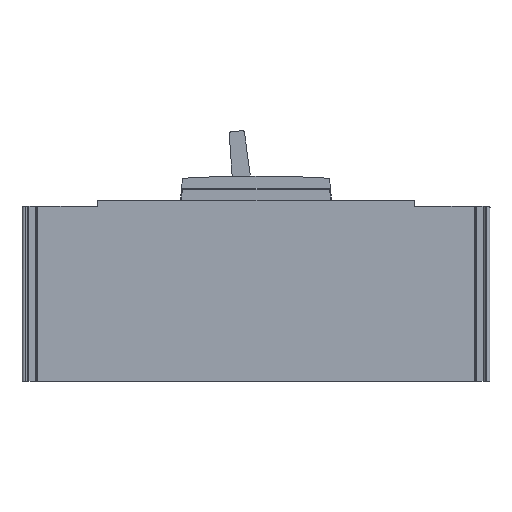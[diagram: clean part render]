
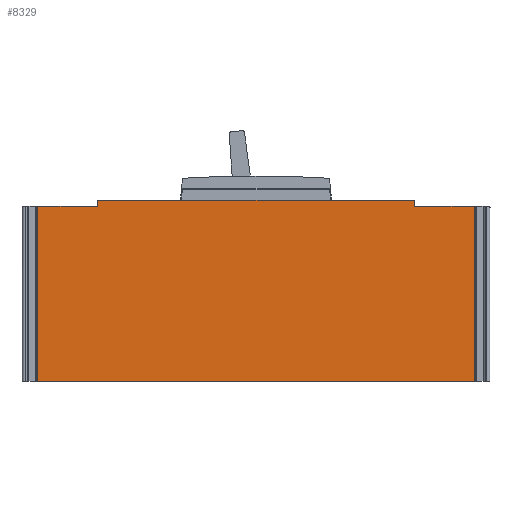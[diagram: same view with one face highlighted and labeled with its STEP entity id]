
A CAD part, left-side view. The second image highlights one B-rep face of the part: STEP entity #8329.
In plain terms, the highlighted planar face has unit normal (-1, 0, 0).
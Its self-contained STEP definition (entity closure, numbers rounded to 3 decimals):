
#14 = CARTESIAN_POINT ( 'NONE',  ( -44.8, -52.5, 0. ) ) ;
#164 = DIRECTION ( 'NONE',  ( 1., 0., 0. ) ) ;
#186 = VECTOR ( 'NONE', #2736, 1000. ) ;
#188 = DIRECTION ( 'NONE',  ( 0., 0., -1. ) ) ;
#220 = VERTEX_POINT ( 'NONE', #9301 ) ;
#312 = CARTESIAN_POINT ( 'NONE',  ( -44.8, 52.2, 59.7 ) ) ;
#354 = VECTOR ( 'NONE', #2937, 1000. ) ;
#396 = EDGE_LOOP ( 'NONE', ( #5978, #9366, #1387, #8768, #1999, #12055, #5840, #7973, #645, #7456, #7974, #6029, #7038 ) ) ;
#433 = CARTESIAN_POINT ( 'NONE',  ( -44.8, -72.3, 83.061 ) ) ;
#481 = CARTESIAN_POINT ( 'NONE',  ( -44.8, -52.5, 0. ) ) ;
#645 = ORIENTED_EDGE ( 'NONE', *, *, #6378, .F. ) ;
#652 = DIRECTION ( 'NONE',  ( 0., -1., 0. ) ) ;
#698 = VECTOR ( 'NONE', #6804, 1000. ) ;
#917 = CARTESIAN_POINT ( 'NONE',  ( -44.8, 0., 60. ) ) ;
#923 = LINE ( 'NONE', #11630, #186 ) ;
#1165 = DIRECTION ( 'NONE',  ( 0., 0., -1. ) ) ;
#1320 = VERTEX_POINT ( 'NONE', #10603 ) ;
#1387 = ORIENTED_EDGE ( 'NONE', *, *, #6783, .F. ) ;
#1476 = DIRECTION ( 'NONE',  ( 0., 0., -1. ) ) ;
#1999 = ORIENTED_EDGE ( 'NONE', *, *, #4926, .F. ) ;
#2209 = VECTOR ( 'NONE', #7903, 1000. ) ;
#2216 = EDGE_CURVE ( 'NONE', #220, #8034, #11765, .T. ) ;
#2310 = CARTESIAN_POINT ( 'NONE',  ( -44.8, 0., 60. ) ) ;
#2347 = VECTOR ( 'NONE', #4758, 1000. ) ;
#2662 = CARTESIAN_POINT ( 'NONE',  ( -44.8, -52.2, 60. ) ) ;
#2736 = DIRECTION ( 'NONE',  ( 0., -1., 0. ) ) ;
#2937 = DIRECTION ( 'NONE',  ( 0., -1., 0. ) ) ;
#3049 = EDGE_CURVE ( 'NONE', #5321, #11453, #5594, .T. ) ;
#3134 = CARTESIAN_POINT ( 'NONE',  ( -44.8, 0., 0. ) ) ;
#3207 = EDGE_CURVE ( 'NONE', #6562, #8861, #8908, .T. ) ;
#3252 = DIRECTION ( 'NONE',  ( 1., 0., 0. ) ) ;
#3306 = AXIS2_PLACEMENT_3D ( 'NONE', #3134, #3252, #7196 ) ;
#3493 = CIRCLE ( 'NONE', #9274, 0.3 ) ;
#3547 = EDGE_CURVE ( 'NONE', #11453, #8034, #7386, .T. ) ;
#3750 = VERTEX_POINT ( 'NONE', #4487 ) ;
#3864 = CARTESIAN_POINT ( 'NONE',  ( -44.8, 72.3, 83.061 ) ) ;
#4015 = EDGE_CURVE ( 'NONE', #11046, #1320, #5861, .T. ) ;
#4077 = CARTESIAN_POINT ( 'NONE',  ( -44.8, 25., 60. ) ) ;
#4093 = VECTOR ( 'NONE', #6669, 1000. ) ;
#4284 = CARTESIAN_POINT ( 'NONE',  ( -44.8, 52.5, 59.7 ) ) ;
#4487 = CARTESIAN_POINT ( 'NONE',  ( -44.8, 52.2, 60. ) ) ;
#4502 = CARTESIAN_POINT ( 'NONE',  ( -44.8, 0., 58. ) ) ;
#4756 = CARTESIAN_POINT ( 'NONE',  ( -44.8, 52.5, 58. ) ) ;
#4758 = DIRECTION ( 'NONE',  ( 0., 0., -1. ) ) ;
#4926 = EDGE_CURVE ( 'NONE', #220, #6562, #6571, .T. ) ;
#5037 = CARTESIAN_POINT ( 'NONE',  ( -44.8, -72.3, 58. ) ) ;
#5102 = VERTEX_POINT ( 'NONE', #2662 ) ;
#5278 = CARTESIAN_POINT ( 'NONE',  ( -44.8, -52.5, 58. ) ) ;
#5321 = VERTEX_POINT ( 'NONE', #5037 ) ;
#5594 = LINE ( 'NONE', #433, #10415 ) ;
#5840 = ORIENTED_EDGE ( 'NONE', *, *, #3547, .F. ) ;
#5861 = LINE ( 'NONE', #14, #698 ) ;
#5978 = ORIENTED_EDGE ( 'NONE', *, *, #9625, .T. ) ;
#6029 = ORIENTED_EDGE ( 'NONE', *, *, #11408, .F. ) ;
#6128 = CARTESIAN_POINT ( 'NONE',  ( -44.8, -52.5, 59.7 ) ) ;
#6378 = EDGE_CURVE ( 'NONE', #8841, #5321, #923, .T. ) ;
#6471 = VECTOR ( 'NONE', #10358, 1000. ) ;
#6562 = VERTEX_POINT ( 'NONE', #4756 ) ;
#6571 = LINE ( 'NONE', #4502, #11736 ) ;
#6669 = DIRECTION ( 'NONE',  ( 0., 1., 0. ) ) ;
#6783 = EDGE_CURVE ( 'NONE', #8861, #3750, #3493, .T. ) ;
#6804 = DIRECTION ( 'NONE',  ( 0., 0., -1. ) ) ;
#6827 = CARTESIAN_POINT ( 'NONE',  ( -44.8, 0., 60. ) ) ;
#6906 = VERTEX_POINT ( 'NONE', #11869 ) ;
#6960 = EDGE_CURVE ( 'NONE', #1320, #8841, #9541, .T. ) ;
#7038 = ORIENTED_EDGE ( 'NONE', *, *, #8356, .F. ) ;
#7078 = DIRECTION ( 'NONE',  ( 1., 0., 0. ) ) ;
#7196 = DIRECTION ( 'NONE',  ( 0., 0., -1. ) ) ;
#7386 = LINE ( 'NONE', #10869, #2209 ) ;
#7456 = ORIENTED_EDGE ( 'NONE', *, *, #6960, .F. ) ;
#7583 = VECTOR ( 'NONE', #11017, 1000. ) ;
#7889 = LINE ( 'NONE', #917, #4093 ) ;
#7903 = DIRECTION ( 'NONE',  ( 0., 1., 0. ) ) ;
#7973 = ORIENTED_EDGE ( 'NONE', *, *, #3049, .F. ) ;
#7974 = ORIENTED_EDGE ( 'NONE', *, *, #4015, .F. ) ;
#8034 = VERTEX_POINT ( 'NONE', #12379 ) ;
#8329 = ADVANCED_FACE ( 'NONE', ( #10870 ), #9062, .F. ) ;
#8356 = EDGE_CURVE ( 'NONE', #6906, #5102, #12158, .T. ) ;
#8417 = CARTESIAN_POINT ( 'NONE',  ( -44.8, 52.5, 0. ) ) ;
#8559 = EDGE_CURVE ( 'NONE', #3750, #10388, #8990, .T. ) ;
#8566 = AXIS2_PLACEMENT_3D ( 'NONE', #8916, #164, #1165 ) ;
#8768 = ORIENTED_EDGE ( 'NONE', *, *, #3207, .F. ) ;
#8841 = VERTEX_POINT ( 'NONE', #5278 ) ;
#8861 = VERTEX_POINT ( 'NONE', #4284 ) ;
#8874 = CARTESIAN_POINT ( 'NONE',  ( -44.8, -72.3, 0. ) ) ;
#8908 = LINE ( 'NONE', #8417, #6471 ) ;
#8916 = CARTESIAN_POINT ( 'NONE',  ( -44.8, -52.2, 59.7 ) ) ;
#8990 = LINE ( 'NONE', #6827, #354 ) ;
#9062 = PLANE ( 'NONE',  #3306 ) ;
#9274 = AXIS2_PLACEMENT_3D ( 'NONE', #312, #7078, #188 ) ;
#9301 = CARTESIAN_POINT ( 'NONE',  ( -44.8, 72.3, 58. ) ) ;
#9366 = ORIENTED_EDGE ( 'NONE', *, *, #8559, .F. ) ;
#9541 = LINE ( 'NONE', #481, #7583 ) ;
#9625 = EDGE_CURVE ( 'NONE', #6906, #10388, #7889, .T. ) ;
#10358 = DIRECTION ( 'NONE',  ( 0., 0., 1. ) ) ;
#10388 = VERTEX_POINT ( 'NONE', #4077 ) ;
#10415 = VECTOR ( 'NONE', #1476, 1000. ) ;
#10603 = CARTESIAN_POINT ( 'NONE',  ( -44.8, -52.5, 58.7 ) ) ;
#10869 = CARTESIAN_POINT ( 'NONE',  ( -44.8, 0., 0. ) ) ;
#10870 = FACE_OUTER_BOUND ( 'NONE', #396, .T. ) ;
#10877 = CIRCLE ( 'NONE', #8566, 0.3 ) ;
#11017 = DIRECTION ( 'NONE',  ( 0., 0., -1. ) ) ;
#11046 = VERTEX_POINT ( 'NONE', #6128 ) ;
#11408 = EDGE_CURVE ( 'NONE', #5102, #11046, #10877, .T. ) ;
#11453 = VERTEX_POINT ( 'NONE', #8874 ) ;
#11630 = CARTESIAN_POINT ( 'NONE',  ( -44.8, 0., 58. ) ) ;
#11736 = VECTOR ( 'NONE', #652, 1000. ) ;
#11765 = LINE ( 'NONE', #3864, #2347 ) ;
#11856 = VECTOR ( 'NONE', #12033, 1000. ) ;
#11869 = CARTESIAN_POINT ( 'NONE',  ( -44.8, -25., 60. ) ) ;
#12033 = DIRECTION ( 'NONE',  ( 0., -1., 0. ) ) ;
#12055 = ORIENTED_EDGE ( 'NONE', *, *, #2216, .T. ) ;
#12158 = LINE ( 'NONE', #2310, #11856 ) ;
#12379 = CARTESIAN_POINT ( 'NONE',  ( -44.8, 72.3, 0. ) ) ;
